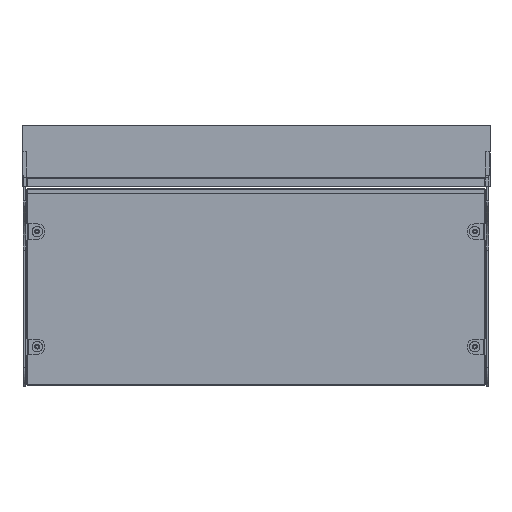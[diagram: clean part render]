
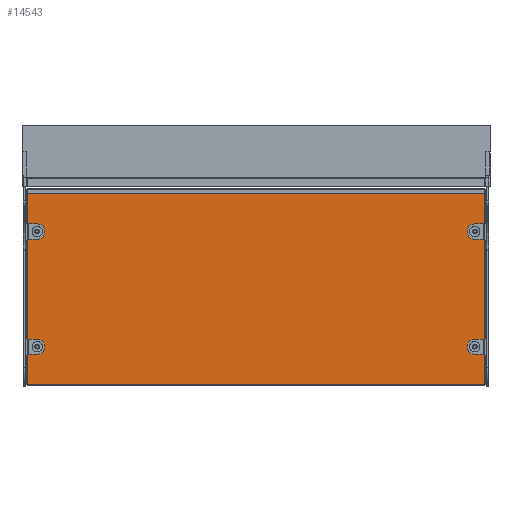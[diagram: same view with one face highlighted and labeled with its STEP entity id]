
A CAD part, front view. The second image highlights one B-rep face of the part: STEP entity #14543.
In plain terms, the highlighted planar face has unit normal (0, -1, -0.018).
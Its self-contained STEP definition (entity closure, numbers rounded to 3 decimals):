
#175 = VERTEX_POINT ( 'NONE', #5128 ) ;
#204 = DIRECTION ( 'NONE',  ( 0., 1., 0.017 ) ) ;
#359 = CARTESIAN_POINT ( 'NONE',  ( -285., 731.712, -291.509 ) ) ;
#545 = ORIENTED_EDGE ( 'NONE', *, *, #10269, .F. ) ;
#549 = CIRCLE ( 'NONE', #12858, 3.15 ) ;
#720 = ORIENTED_EDGE ( 'NONE', *, *, #3827, .F. ) ;
#833 = CARTESIAN_POINT ( 'NONE',  ( 285., 731.712, -291.509 ) ) ;
#1096 = CARTESIAN_POINT ( 'NONE',  ( -285., 729.039, -138.382 ) ) ;
#1933 = CARTESIAN_POINT ( 'NONE',  ( 285., 729.039, -138.382 ) ) ;
#1989 = LINE ( 'NONE', #11311, #12411 ) ;
#2226 = EDGE_CURVE ( 'NONE', #12486, #2253, #17798, .T. ) ;
#2253 = VERTEX_POINT ( 'NONE', #2302 ) ;
#2302 = CARTESIAN_POINT ( 'NONE',  ( 298., 732.512, -337.352 ) ) ;
#2394 = CARTESIAN_POINT ( 'NONE',  ( -550.407, 726.762, -7.918 ) ) ;
#2400 = DIRECTION ( 'NONE',  ( 0., -1., -0.017 ) ) ;
#3071 = CARTESIAN_POINT ( 'NONE',  ( 285., 729.039, -138.382 ) ) ;
#3124 = ORIENTED_EDGE ( 'NONE', *, *, #6508, .T. ) ;
#3218 = CARTESIAN_POINT ( 'NONE',  ( -298., 732.512, -337.352 ) ) ;
#3411 = PLANE ( 'NONE',  #18147 ) ;
#3827 = EDGE_CURVE ( 'NONE', #10514, #4488, #10359, .T. ) ;
#3943 = VECTOR ( 'NONE', #5221, 1000. ) ;
#3963 = CIRCLE ( 'NONE', #9813, 3.15 ) ;
#4488 = VERTEX_POINT ( 'NONE', #6827 ) ;
#4604 = DIRECTION ( 'NONE',  ( 0., 1., 0.017 ) ) ;
#4770 = AXIS2_PLACEMENT_3D ( 'NONE', #6127, #12620, #12522 ) ;
#5019 = LINE ( 'NONE', #9989, #3943 ) ;
#5079 = VERTEX_POINT ( 'NONE', #3218 ) ;
#5128 = CARTESIAN_POINT ( 'NONE',  ( 285., 729.094, -141.532 ) ) ;
#5136 = FACE_BOUND ( 'NONE', #10910, .T. ) ;
#5221 = DIRECTION ( 'NONE',  ( -1., 0., 0. ) ) ;
#5261 = EDGE_CURVE ( 'NONE', #6126, #5079, #10701, .T. ) ;
#5278 = EDGE_LOOP ( 'NONE', ( #3124, #6711 ) ) ;
#5338 = DIRECTION ( 'NONE',  ( 0., 1., 0.017 ) ) ;
#5394 = CIRCLE ( 'NONE', #4770, 3.15 ) ;
#5813 = EDGE_CURVE ( 'NONE', #175, #17114, #549, .T. ) ;
#5968 = ORIENTED_EDGE ( 'NONE', *, *, #5813, .T. ) ;
#6126 = VERTEX_POINT ( 'NONE', #7503 ) ;
#6127 = CARTESIAN_POINT ( 'NONE',  ( 285., 731.657, -288.359 ) ) ;
#6467 = FACE_BOUND ( 'NONE', #5278, .T. ) ;
#6508 = EDGE_CURVE ( 'NONE', #19977, #7029, #7339, .T. ) ;
#6612 = EDGE_LOOP ( 'NONE', ( #8573, #545 ) ) ;
#6711 = ORIENTED_EDGE ( 'NONE', *, *, #16634, .T. ) ;
#6827 = CARTESIAN_POINT ( 'NONE',  ( -285., 731.602, -285.21 ) ) ;
#6861 = EDGE_CURVE ( 'NONE', #12486, #6126, #5019, .T. ) ;
#7029 = VERTEX_POINT ( 'NONE', #13430 ) ;
#7183 = AXIS2_PLACEMENT_3D ( 'NONE', #16693, #11949, #12157 ) ;
#7335 = VECTOR ( 'NONE', #17398, 1000. ) ;
#7339 = CIRCLE ( 'NONE', #11720, 3.15 ) ;
#7503 = CARTESIAN_POINT ( 'NONE',  ( -298., 728.184, -89.389 ) ) ;
#8045 = DIRECTION ( 'NONE',  ( 0., -1., -0.017 ) ) ;
#8048 = DIRECTION ( 'NONE',  ( 0., 0.017, -1. ) ) ;
#8068 = AXIS2_PLACEMENT_3D ( 'NONE', #13956, #15669, #17278 ) ;
#8297 = EDGE_CURVE ( 'NONE', #17114, #175, #12038, .T. ) ;
#8573 = ORIENTED_EDGE ( 'NONE', *, *, #19868, .F. ) ;
#8794 = DIRECTION ( 'NONE',  ( 0., 1., 0.017 ) ) ;
#9302 = VERTEX_POINT ( 'NONE', #17836 ) ;
#9667 = EDGE_LOOP ( 'NONE', ( #5968, #18182 ) ) ;
#9813 = AXIS2_PLACEMENT_3D ( 'NONE', #1096, #2400, #11942 ) ;
#9989 = CARTESIAN_POINT ( 'NONE',  ( -299., 728.184, -89.389 ) ) ;
#10128 = CARTESIAN_POINT ( 'NONE',  ( 298., 732.529, -338.352 ) ) ;
#10269 = EDGE_CURVE ( 'NONE', #11149, #9302, #3963, .T. ) ;
#10359 = CIRCLE ( 'NONE', #8068, 3.15 ) ;
#10514 = VERTEX_POINT ( 'NONE', #359 ) ;
#10527 = EDGE_CURVE ( 'NONE', #5079, #2253, #1989, .T. ) ;
#10559 = CARTESIAN_POINT ( 'NONE',  ( -285., 728.984, -135.232 ) ) ;
#10701 = LINE ( 'NONE', #12115, #11775 ) ;
#10910 = EDGE_LOOP ( 'NONE', ( #720, #17909 ) ) ;
#11149 = VERTEX_POINT ( 'NONE', #10559 ) ;
#11152 = FACE_OUTER_BOUND ( 'NONE', #11798, .T. ) ;
#11194 = CARTESIAN_POINT ( 'NONE',  ( -285., 729.039, -138.382 ) ) ;
#11217 = DIRECTION ( 'NONE',  ( 1., 0., 0. ) ) ;
#11311 = CARTESIAN_POINT ( 'NONE',  ( -550.407, 732.512, -337.352 ) ) ;
#11720 = AXIS2_PLACEMENT_3D ( 'NONE', #18283, #8794, #17887 ) ;
#11775 = VECTOR ( 'NONE', #16753, 1000. ) ;
#11798 = EDGE_LOOP ( 'NONE', ( #11987, #12387, #16209, #17901 ) ) ;
#11942 = DIRECTION ( 'NONE',  ( 0., 0.017, -1. ) ) ;
#11949 = DIRECTION ( 'NONE',  ( 0., -1., -0.017 ) ) ;
#11987 = ORIENTED_EDGE ( 'NONE', *, *, #10527, .T. ) ;
#12038 = CIRCLE ( 'NONE', #14591, 3.15 ) ;
#12115 = CARTESIAN_POINT ( 'NONE',  ( -298., 732.529, -338.352 ) ) ;
#12157 = DIRECTION ( 'NONE',  ( 0., 0.017, -1. ) ) ;
#12387 = ORIENTED_EDGE ( 'NONE', *, *, #2226, .F. ) ;
#12411 = VECTOR ( 'NONE', #11217, 1000. ) ;
#12486 = VERTEX_POINT ( 'NONE', #14916 ) ;
#12522 = DIRECTION ( 'NONE',  ( 0., 0.017, -1. ) ) ;
#12620 = DIRECTION ( 'NONE',  ( 0., 1., 0.017 ) ) ;
#12661 = FACE_BOUND ( 'NONE', #9667, .T. ) ;
#12858 = AXIS2_PLACEMENT_3D ( 'NONE', #1933, #204, #17415 ) ;
#12949 = EDGE_CURVE ( 'NONE', #4488, #10514, #13018, .T. ) ;
#13018 = CIRCLE ( 'NONE', #7183, 3.15 ) ;
#13430 = CARTESIAN_POINT ( 'NONE',  ( 285., 731.602, -285.21 ) ) ;
#13956 = CARTESIAN_POINT ( 'NONE',  ( -285., 731.657, -288.359 ) ) ;
#14213 = DIRECTION ( 'NONE',  ( 0., 0.017, -1. ) ) ;
#14524 = CARTESIAN_POINT ( 'NONE',  ( 285., 728.984, -135.232 ) ) ;
#14543 = ADVANCED_FACE ( 'NONE', ( #6467, #12661, #5136, #18799, #11152 ), #3411, .F. ) ;
#14591 = AXIS2_PLACEMENT_3D ( 'NONE', #3071, #4604, #8048 ) ;
#14795 = CIRCLE ( 'NONE', #17704, 3.15 ) ;
#14916 = CARTESIAN_POINT ( 'NONE',  ( 298., 728.184, -89.389 ) ) ;
#15669 = DIRECTION ( 'NONE',  ( 0., -1., -0.017 ) ) ;
#16209 = ORIENTED_EDGE ( 'NONE', *, *, #6861, .T. ) ;
#16634 = EDGE_CURVE ( 'NONE', #7029, #19977, #5394, .T. ) ;
#16693 = CARTESIAN_POINT ( 'NONE',  ( -285., 731.657, -288.359 ) ) ;
#16753 = DIRECTION ( 'NONE',  ( 0., 0.017, -1. ) ) ;
#17114 = VERTEX_POINT ( 'NONE', #14524 ) ;
#17278 = DIRECTION ( 'NONE',  ( 0., 0.017, -1. ) ) ;
#17398 = DIRECTION ( 'NONE',  ( 0., 0.017, -1. ) ) ;
#17415 = DIRECTION ( 'NONE',  ( 0., 0.017, -1. ) ) ;
#17704 = AXIS2_PLACEMENT_3D ( 'NONE', #11194, #8045, #14213 ) ;
#17798 = LINE ( 'NONE', #10128, #7335 ) ;
#17836 = CARTESIAN_POINT ( 'NONE',  ( -285., 729.094, -141.532 ) ) ;
#17887 = DIRECTION ( 'NONE',  ( 0., 0.017, -1. ) ) ;
#17901 = ORIENTED_EDGE ( 'NONE', *, *, #5261, .T. ) ;
#17909 = ORIENTED_EDGE ( 'NONE', *, *, #12949, .F. ) ;
#18147 = AXIS2_PLACEMENT_3D ( 'NONE', #2394, #5338, #19293 ) ;
#18182 = ORIENTED_EDGE ( 'NONE', *, *, #8297, .T. ) ;
#18283 = CARTESIAN_POINT ( 'NONE',  ( 285., 731.657, -288.359 ) ) ;
#18799 = FACE_BOUND ( 'NONE', #6612, .T. ) ;
#19293 = DIRECTION ( 'NONE',  ( 1., 0., 0. ) ) ;
#19868 = EDGE_CURVE ( 'NONE', #9302, #11149, #14795, .T. ) ;
#19977 = VERTEX_POINT ( 'NONE', #833 ) ;
